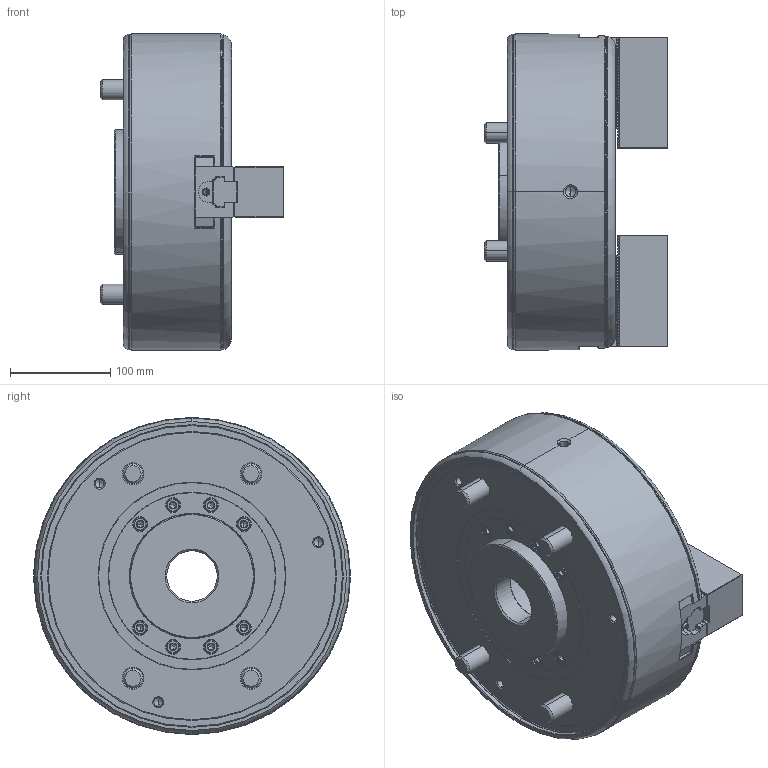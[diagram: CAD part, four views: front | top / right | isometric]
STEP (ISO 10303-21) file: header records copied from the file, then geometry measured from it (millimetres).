
FILE_DESCRIPTION (( 'STEP AP214' ), '1' );
FILE_NAME ('BRT12_OC.STEP', '2023-06-15T07:27:52', ( '' ), ( '' ), 'SwSTEP 2.0', 'SolidWorks 2020', '' );
FILE_SCHEMA (( 'AUTOMOTIVE_DESIGN' ));
Length unit declared in the file: millimetre
Products named in the file (5): 61P318349; 61P447364; BRT12_OC; Part1^61P117278; 0030116035
Assembly tree (9 placements, depth 2):
  BRT12_OC
    61P318349  x2
    61P447364  x2
    0030116035  x4
    Part1^61P117278
Bounding box: 183 x 315 x 315 mm (x, y, z)
Volume: 7664753.2 mm3; surface area: 523548.3 mm2
Topology: 9 solids, 32 shells, 3458 faces, 9592 edges, 6262 vertices
Faces by surface type: plane 2508, cylinder 374, cone 320, bspline 177, torus 74, sphere 5
Entity records: 99272 total; most frequent: CARTESIAN_POINT 26951, ORIENTED_EDGE 15742, DIRECTION 13557, EDGE_CURVE 7871, LINE 5925, VECTOR 5925, VERTEX_POINT 5163, AXIS2_PLACEMENT_3D 3816
